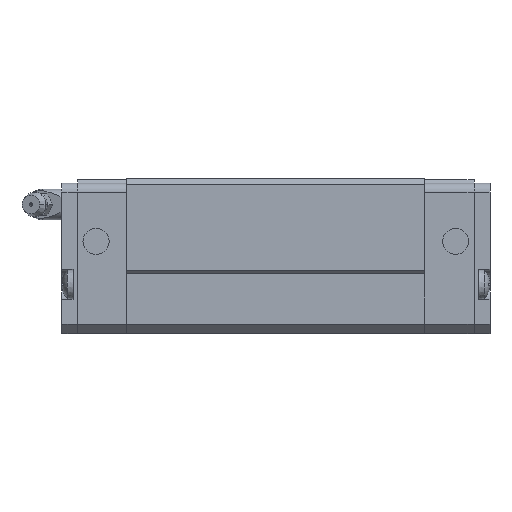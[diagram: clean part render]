
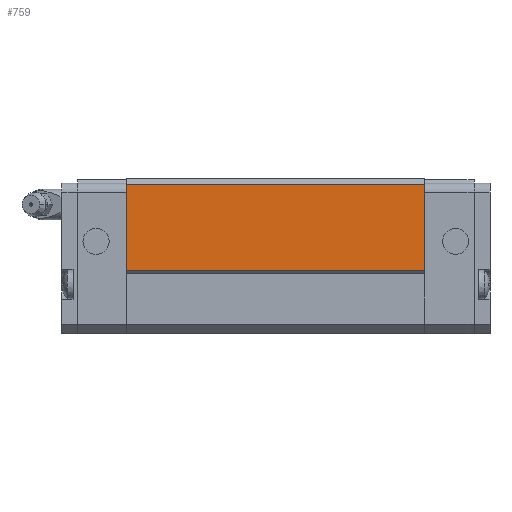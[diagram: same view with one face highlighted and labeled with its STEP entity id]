
A CAD part, front view. The second image highlights one B-rep face of the part: STEP entity #759.
In plain terms, the highlighted planar face has unit normal (0, -1, 0).
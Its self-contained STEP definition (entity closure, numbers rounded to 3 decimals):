
#698=CARTESIAN_POINT('POINT44',(118.2,-43.,
   20.5));
#699=VERTEX_POINT('VERTEX44',#698);
#706=CARTESIAN_POINT('POINT45',(21.2,-43.,
   20.5));
#707=VERTEX_POINT('VERTEX45',#706);
#708=CARTESIAN_POINT('POS73',(21.2,-43.,
   20.5));
#709=DIRECTION('DIR108',(1.,0.,0.));
#710=VECTOR('VEC38',#709,1.);
#711=LINE('STRAIGHT38',#708,#710);
#712=EDGE_CURVE('EDGE70',#707,#699,#711,.T.);
#729=CARTESIAN_POINT('POINT46',(118.2,-43.,
   48.5));
#730=VERTEX_POINT('VERTEX46',#729);
#731=CARTESIAN_POINT('POS76',(118.2,-43.,
   48.5));
#732=DIRECTION('DIR112',(0.,0.,1.));
#733=VECTOR('VEC40',#732,1.);
#734=LINE('STRAIGHT40',#731,#733);
#735=EDGE_CURVE('EDGE72',#699,#730,#734,.T.);
#736=ORIENTED_EDGE('COEDGE127',*,*,#735,.T.);
#737=CARTESIAN_POINT('POINT47',(21.2,-43.,
   48.5));
#738=VERTEX_POINT('VERTEX47',#737);
#739=CARTESIAN_POINT('POS77',(21.2,-43.,
   48.5));
#740=DIRECTION('DIR113',(1.,0.,0.));
#741=VECTOR('VEC41',#740,1.);
#742=LINE('STRAIGHT41',#739,#741);
#743=EDGE_CURVE('EDGE73',#738,#730,#742,.T.);
#744=ORIENTED_EDGE('COEDGE128',*,*,#743,.F.);
#745=CARTESIAN_POINT('POS78',(21.2,-43.,
   48.5));
#746=DIRECTION('DIR114',(0.,0.,-1.));
#747=VECTOR('VEC42',#746,1.);
#748=LINE('STRAIGHT42',#745,#747);
#749=EDGE_CURVE('EDGE74',#738,#707,#748,.T.);
#750=ORIENTED_EDGE('COEDGE129',*,*,#749,.T.);
#751=ORIENTED_EDGE('COEDGE130',*,*,#712,.T.);
#752=EDGE_LOOP('NONE',(#736,#744,#750,#751));
#753=FACE_BOUND('LOOP1',#752,.T.);
#754=CARTESIAN_POINT('POS79',(21.2,-43.,
   20.5));
#755=DIRECTION('DIR115',(0.,-1.,0.));
#756=DIRECTION('DIR116',(1.,0.,0.));
#757=AXIS2_PLACEMENT_3D('AXIS37',#754,#755,#756);
#758=PLANE('PLANE8',#757);
#759=ADVANCED_FACE('FACE34',(#753),#758,.T.);
